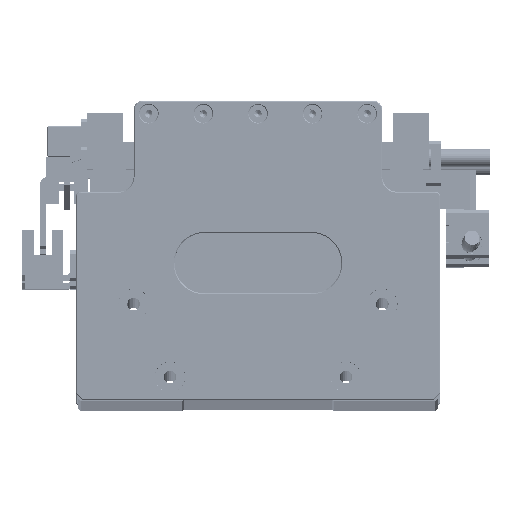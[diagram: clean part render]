
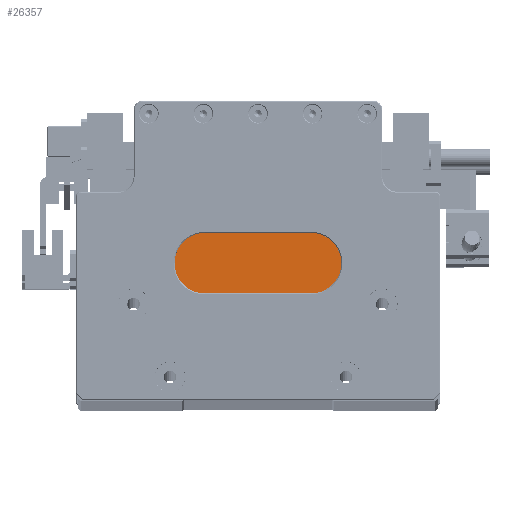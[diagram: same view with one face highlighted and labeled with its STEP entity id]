
A CAD part, top view. The second image highlights one B-rep face of the part: STEP entity #26357.
In plain terms, the highlighted planar face has unit normal (0, 0, 1).
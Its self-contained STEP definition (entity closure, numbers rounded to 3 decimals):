
#1349 = EDGE_CURVE ( 'NONE', #65308, #40972, #55121, .T. ) ;
#4347 = CARTESIAN_POINT ( 'NONE',  ( 2.868, -17.023, 340. ) ) ;
#6211 = ORIENTED_EDGE ( 'NONE', *, *, #104751, .T. ) ;
#7160 = LINE ( 'NONE', #125058, #28002 ) ;
#8029 = ORIENTED_EDGE ( 'NONE', *, *, #18572, .T. ) ;
#10862 = AXIS2_PLACEMENT_3D ( 'NONE', #32437, #104260, #42741 ) ;
#14301 = VERTEX_POINT ( 'NONE', #61777 ) ;
#14646 = DIRECTION ( 'NONE',  ( 1., 0., 0. ) ) ;
#14839 = DIRECTION ( 'NONE',  ( 1., 0., 0. ) ) ;
#16126 = CARTESIAN_POINT ( 'NONE',  ( 2.868, -17.023, 340. ) ) ;
#17315 = CARTESIAN_POINT ( 'NONE',  ( 25.168, -9.023, 340. ) ) ;
#17849 = FACE_BOUND ( 'NONE', #67173, .T. ) ;
#18572 = EDGE_CURVE ( 'NONE', #111301, #78322, #72830, .T. ) ;
#21945 = ORIENTED_EDGE ( 'NONE', *, *, #69120, .T. ) ;
#24260 = LINE ( 'NONE', #46620, #99762 ) ;
#24478 = CARTESIAN_POINT ( 'NONE',  ( -4.632, -17.023, 340. ) ) ;
#25363 = LINE ( 'NONE', #110792, #107259 ) ;
#26357 = ADVANCED_FACE ( 'NONE', ( #72475, #96576, #17849 ), #110524, .T. ) ;
#26420 = DIRECTION ( 'NONE',  ( 1., 0., 0. ) ) ;
#27196 = DIRECTION ( 'NONE',  ( 0., 1., 0. ) ) ;
#28002 = VECTOR ( 'NONE', #125495, 1000. ) ;
#28422 = CARTESIAN_POINT ( 'NONE',  ( -4.632, -9.023, 340. ) ) ;
#29482 = ORIENTED_EDGE ( 'NONE', *, *, #57149, .T. ) ;
#29496 = ORIENTED_EDGE ( 'NONE', *, *, #126749, .T. ) ;
#32249 = CIRCLE ( 'NONE', #55240, 1.25 ) ;
#32437 = CARTESIAN_POINT ( 'NONE',  ( -12.132, -17.023, 340. ) ) ;
#36270 = ORIENTED_EDGE ( 'NONE', *, *, #1349, .T. ) ;
#37938 = DIRECTION ( 'NONE',  ( 0., 0., -1. ) ) ;
#38211 = VECTOR ( 'NONE', #14839, 1000. ) ;
#38699 = VERTEX_POINT ( 'NONE', #94706 ) ;
#38954 = DIRECTION ( 'NONE',  ( -1., 0., 0. ) ) ;
#39403 = CARTESIAN_POINT ( 'NONE',  ( 13.868, -9.223, 340. ) ) ;
#39690 = VERTEX_POINT ( 'NONE', #79843 ) ;
#40972 = VERTEX_POINT ( 'NONE', #83472 ) ;
#42741 = DIRECTION ( 'NONE',  ( 1., 0., 0. ) ) ;
#45335 = EDGE_CURVE ( 'NONE', #51529, #39690, #24260, .T. ) ;
#45796 = CARTESIAN_POINT ( 'NONE',  ( -34.632, -49.023, 340. ) ) ;
#46620 = CARTESIAN_POINT ( 'NONE',  ( -34.432, -9.023, 340. ) ) ;
#47491 = DIRECTION ( 'NONE',  ( 0., -1., 0. ) ) ;
#49047 = DIRECTION ( 'NONE',  ( 0., 0., 1. ) ) ;
#51529 = VERTEX_POINT ( 'NONE', #104237 ) ;
#53244 = EDGE_LOOP ( 'NONE', ( #21945, #118837, #75066, #97873, #62780, #8029, #29496, #124420 ) ) ;
#55121 = CIRCLE ( 'NONE', #88912, 1.25 ) ;
#55240 = AXIS2_PLACEMENT_3D ( 'NONE', #16126, #87940, #26420 ) ;
#56680 = EDGE_CURVE ( 'NONE', #38699, #51529, #82893, .T. ) ;
#57149 = EDGE_CURVE ( 'NONE', #40972, #65308, #95631, .T. ) ;
#58212 = DIRECTION ( 'NONE',  ( -1., 0., 0. ) ) ;
#58490 = CARTESIAN_POINT ( 'NONE',  ( -23.132, -9.023, 340. ) ) ;
#58798 = VECTOR ( 'NONE', #86005, 1000. ) ;
#61777 = CARTESIAN_POINT ( 'NONE',  ( 1.618, -17.023, 340. ) ) ;
#62677 = VECTOR ( 'NONE', #58212, 1000. ) ;
#62780 = ORIENTED_EDGE ( 'NONE', *, *, #126637, .T. ) ;
#63497 = VERTEX_POINT ( 'NONE', #101688 ) ;
#65308 = VERTEX_POINT ( 'NONE', #101825 ) ;
#67173 = EDGE_LOOP ( 'NONE', ( #36270, #29482 ) ) ;
#68105 = CARTESIAN_POINT ( 'NONE',  ( -4.632, -9.223, 340. ) ) ;
#69120 = EDGE_CURVE ( 'NONE', #71350, #113922, #117222, .T. ) ;
#69667 = EDGE_CURVE ( 'NONE', #113922, #38699, #113881, .T. ) ;
#71350 = VERTEX_POINT ( 'NONE', #39403 ) ;
#72475 = FACE_OUTER_BOUND ( 'NONE', #53244, .T. ) ;
#72830 = LINE ( 'NONE', #17315, #100132 ) ;
#75066 = ORIENTED_EDGE ( 'NONE', *, *, #56680, .T. ) ;
#75937 = AXIS2_PLACEMENT_3D ( 'NONE', #4347, #76144, #14646 ) ;
#76144 = DIRECTION ( 'NONE',  ( 0., 0., -1. ) ) ;
#78322 = VERTEX_POINT ( 'NONE', #85216 ) ;
#79531 = VERTEX_POINT ( 'NONE', #103291 ) ;
#79843 = CARTESIAN_POINT ( 'NONE',  ( -34.432, -49.023, 340. ) ) ;
#81675 = EDGE_LOOP ( 'NONE', ( #127931, #6211 ) ) ;
#82893 = LINE ( 'NONE', #24478, #58798 ) ;
#83472 = CARTESIAN_POINT ( 'NONE',  ( -13.382, -17.023, 340. ) ) ;
#83994 = AXIS2_PLACEMENT_3D ( 'NONE', #28422, #49047, #120791 ) ;
#85216 = CARTESIAN_POINT ( 'NONE',  ( 25.168, -17.023, 340. ) ) ;
#86005 = DIRECTION ( 'NONE',  ( -1., 0., 0. ) ) ;
#87940 = DIRECTION ( 'NONE',  ( 0., 0., -1. ) ) ;
#88912 = AXIS2_PLACEMENT_3D ( 'NONE', #99452, #37938, #109746 ) ;
#92845 = LINE ( 'NONE', #45796, #38211 ) ;
#94706 = CARTESIAN_POINT ( 'NONE',  ( -23.132, -17.023, 340. ) ) ;
#95631 = CIRCLE ( 'NONE', #10862, 1.25 ) ;
#96064 = EDGE_CURVE ( 'NONE', #63497, #14301, #127379, .T. ) ;
#96576 = FACE_BOUND ( 'NONE', #81675, .T. ) ;
#97873 = ORIENTED_EDGE ( 'NONE', *, *, #45335, .T. ) ;
#99452 = CARTESIAN_POINT ( 'NONE',  ( -12.132, -17.023, 340. ) ) ;
#99762 = VECTOR ( 'NONE', #47491, 1000. ) ;
#100132 = VECTOR ( 'NONE', #27196, 1000. ) ;
#101668 = CARTESIAN_POINT ( 'NONE',  ( -23.132, -9.223, 340. ) ) ;
#101688 = CARTESIAN_POINT ( 'NONE',  ( 4.118, -17.023, 340. ) ) ;
#101825 = CARTESIAN_POINT ( 'NONE',  ( -10.882, -17.023, 340. ) ) ;
#102368 = EDGE_CURVE ( 'NONE', #79531, #71350, #7160, .T. ) ;
#103291 = CARTESIAN_POINT ( 'NONE',  ( 13.868, -17.023, 340. ) ) ;
#104237 = CARTESIAN_POINT ( 'NONE',  ( -34.432, -17.023, 340. ) ) ;
#104260 = DIRECTION ( 'NONE',  ( 0., 0., -1. ) ) ;
#104751 = EDGE_CURVE ( 'NONE', #14301, #63497, #32249, .T. ) ;
#107259 = VECTOR ( 'NONE', #38954, 1000. ) ;
#109746 = DIRECTION ( 'NONE',  ( 1., 0., 0. ) ) ;
#110524 = PLANE ( 'NONE',  #83994 ) ;
#110685 = VECTOR ( 'NONE', #119935, 1000. ) ;
#110792 = CARTESIAN_POINT ( 'NONE',  ( -4.632, -17.023, 340. ) ) ;
#111301 = VERTEX_POINT ( 'NONE', #126762 ) ;
#113881 = LINE ( 'NONE', #58490, #110685 ) ;
#113922 = VERTEX_POINT ( 'NONE', #101668 ) ;
#117222 = LINE ( 'NONE', #68105, #62677 ) ;
#118837 = ORIENTED_EDGE ( 'NONE', *, *, #69667, .T. ) ;
#119935 = DIRECTION ( 'NONE',  ( 0., -1., 0. ) ) ;
#120791 = DIRECTION ( 'NONE',  ( 1., 0., 0. ) ) ;
#124420 = ORIENTED_EDGE ( 'NONE', *, *, #102368, .T. ) ;
#125058 = CARTESIAN_POINT ( 'NONE',  ( 13.868, -9.023, 340. ) ) ;
#125495 = DIRECTION ( 'NONE',  ( 0., 1., 0. ) ) ;
#126637 = EDGE_CURVE ( 'NONE', #39690, #111301, #92845, .T. ) ;
#126749 = EDGE_CURVE ( 'NONE', #78322, #79531, #25363, .T. ) ;
#126762 = CARTESIAN_POINT ( 'NONE',  ( 25.168, -49.023, 340. ) ) ;
#127379 = CIRCLE ( 'NONE', #75937, 1.25 ) ;
#127931 = ORIENTED_EDGE ( 'NONE', *, *, #96064, .T. ) ;
